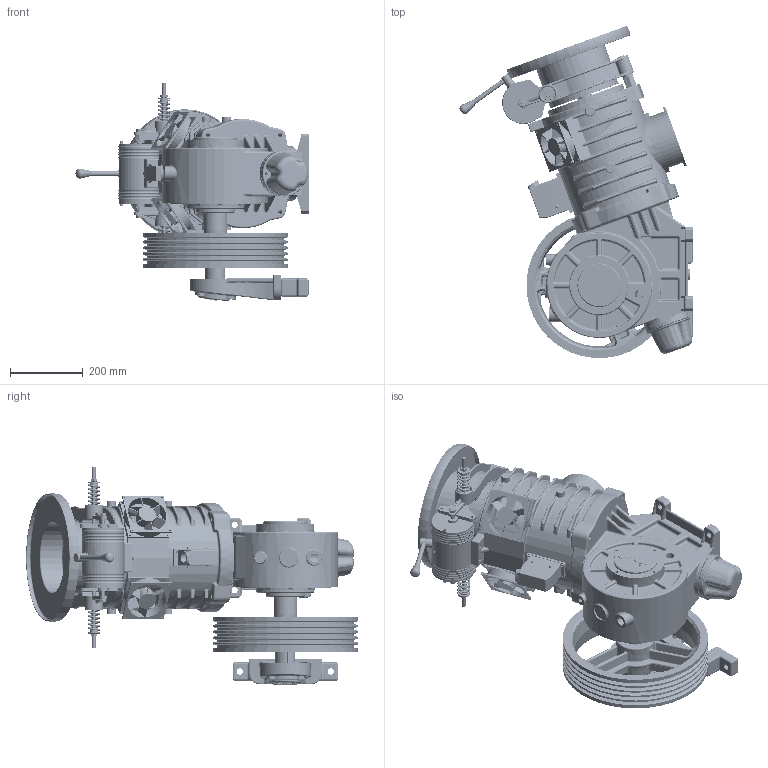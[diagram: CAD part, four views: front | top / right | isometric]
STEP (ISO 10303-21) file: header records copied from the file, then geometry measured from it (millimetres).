
FILE_DESCRIPTION (( 'STEP AP214' ), '1' );
FILE_NAME ('EL55063.STEP', '2025-10-02T08:59:38', ( '' ), ( '' ), 'SwSTEP 2.0', 'SolidWorks 2023', '' );
FILE_SCHEMA (( 'AUTOMOTIVE_DESIGN' ));
Length unit declared in the file: millimetre
Products named in the file (1): EL55063
Bounding box: 640.47 x 911.7 x 600.2 mm (x, y, z)
Volume: 39611259.5 mm3; surface area: 4789894.4 mm2
Topology: 89 solids, 103 shells, 6272 faces, 15110 edges, 8930 vertices
Faces by surface type: cylinder 2221, plane 1448, bspline 1336, torus 569, cone 383, sphere 315
Entity records: 249202 total; most frequent: CARTESIAN_POINT 112358, ORIENTED_EDGE 29534, DIRECTION 27510, EDGE_CURVE 14767, AXIS2_PLACEMENT_3D 11331, VERTEX_POINT 8905, EDGE_LOOP 6884, CIRCLE 6394
